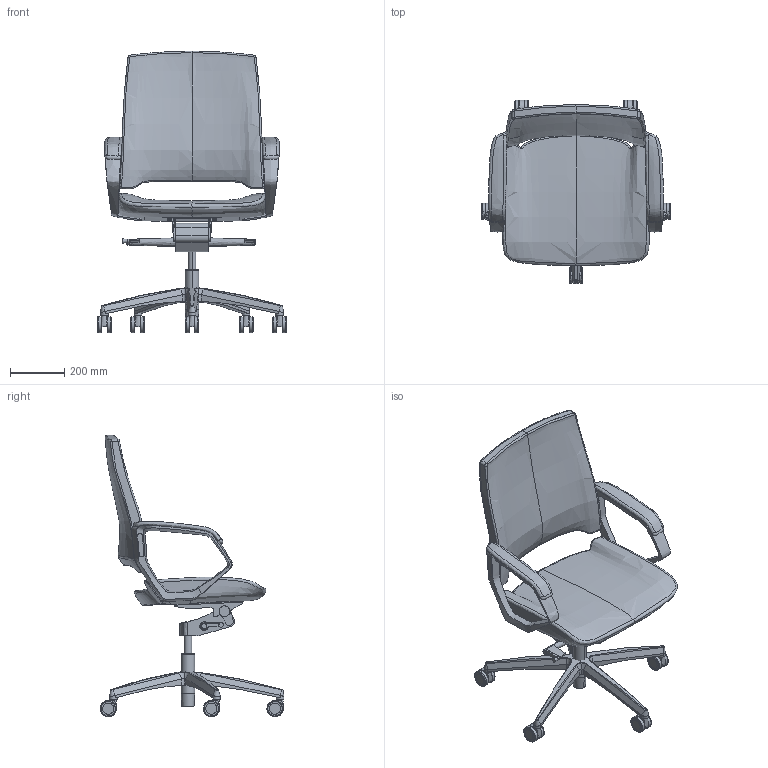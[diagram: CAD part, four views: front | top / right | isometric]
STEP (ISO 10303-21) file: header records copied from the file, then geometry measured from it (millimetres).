
FILE_DESCRIPTION(/* description */ (''),/* implementation_level */ '2;1');
FILE_NAME(/* name */ 'TE7D2B~1',/* time_stamp */ '2017-02-22T10:24:27+01:00',/* author */ (''),/* organization */ (''),/* preprocessor_version */ 'ST-DEVELOPER v15',/* originating_system */ '',/* authorisation */ '');
FILE_SCHEMA (('CONFIG_CONTROL_DESIGN'));
Length unit declared in the file: millimetre
Products named in the file (1): Document
Bounding box: 697.72 x 677.55 x 1038.35 mm (x, y, z)
Volume: 19324365.5 mm3; surface area: 2090307.9 mm2
Topology: 10 solids, 58 shells, 445 faces, 1055 edges, 647 vertices
Faces by surface type: bspline 351, plane 94
Entity records: 32197 total; most frequent: CARTESIAN_POINT 26034, ORIENTED_EDGE 1938, EDGE_CURVE 1036, VERTEX_POINT 641, B_SPLINE_CURVE_WITH_KNOTS 531, EDGE_LOOP 459, ADVANCED_FACE 445, FACE_OUTER_BOUND 445
